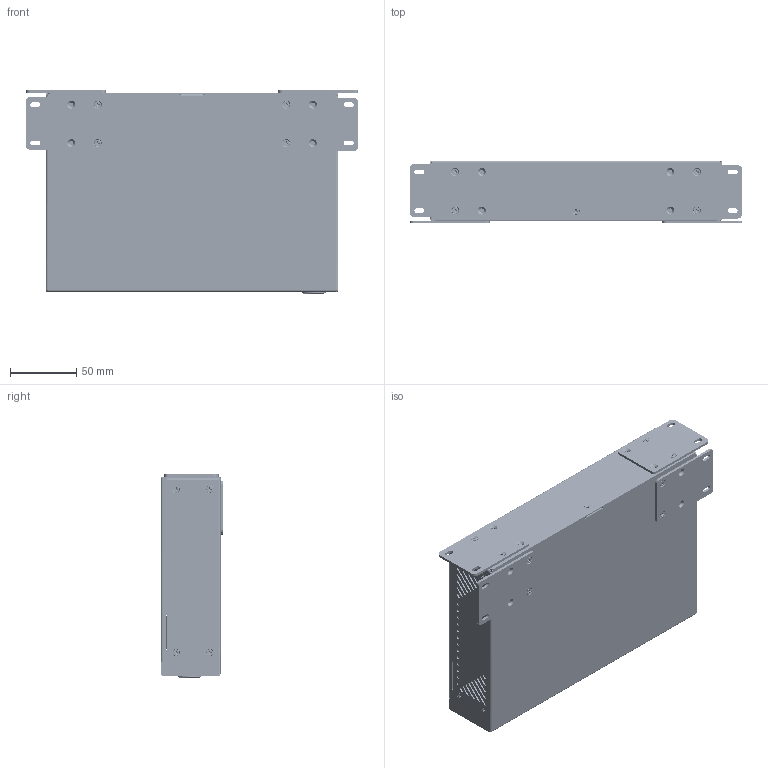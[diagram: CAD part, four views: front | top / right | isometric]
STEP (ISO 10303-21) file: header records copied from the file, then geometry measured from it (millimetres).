
FILE_DESCRIPTION((''),'2;1');
FILE_NAME('00-SMALL-CONTROL-CABINET_ASM','2025-12-22T09:57:09',('lenovo'),(''),'CREO PARAMETRIC BY PTC INC, 2024063','CREO PARAMETRIC BY PTC INC, 2024063','');
FILE_SCHEMA(('CONFIG_CONTROL_DESIGN','SHAPE_APPEARANCE_LAYERS_GROUPS'));
Products named in the file (26): 3204002863; 3204002864; M3X4; KF2EDGRM-X-5_08-3P-1G; KF2EDGRM-X-5_08-5P-1G; FRJ45077-1100K6K1200-REF_; C-292336-1-B-3D; __4_AF0; __7_2__AF0; __9_AF0; 00BCA676-CFFC-4ACA-82DB-304E6C2_AF0_ASM; HR911105A_ASM; 16SWITCH-BUTTON; 00-PCB-CONTROL_ASM; 2KF014RM-3_5-2X20P-1G; 2KF014RM-3_5-2X6P-1G; 2KF014RM-3_5-2X5P-1G; 2KF014RM-3_5-2X4P-1G; 00-IO_ASM; 00-PCB_ASM; 3204002866; FAN-FILTRATION-MODULE_ASM; 3508000037; FILTERING-NET-MODULE_ASM; 3204002465; 00-SMALL-CONTROL-CABINET_ASM
Assembly tree (49 placements, depth 6):
  00-SMALL-CONTROL-CABINET_ASM
    3204002863
    3204002864
    M3X4  x13
    00-PCB_ASM
      00-PCB-CONTROL_ASM
        KF2EDGRM-X-5_08-3P-1G
        KF2EDGRM-X-5_08-5P-1G
        FRJ45077-1100K6K1200-REF_
        C-292336-1-B-3D
        HR911105A_ASM  x2
          00BCA676-CFFC-4ACA-82DB-304E6C2_AF0_ASM
            __4_AF0
            __7_2__AF0
            __9_AF0
        16SWITCH-BUTTON
      00-IO_ASM
        2KF014RM-3_5-2X20P-1G
        2KF014RM-3_5-2X6P-1G
        2KF014RM-3_5-2X5P-1G
        2KF014RM-3_5-2X4P-1G
    FAN-FILTRATION-MODULE_ASM
      3204002866
      M3X4  x4
    FILTERING-NET-MODULE_ASM
      3508000037
      M3X4  x4
    3204002465  x4
Bounding box: 250 x 47 x 153.6 mm (x, y, z)
Volume: 158305.2 mm3; surface area: 280915.4 mm2
Topology: 78 solids, 80 shells, 13555 faces, 39174 edges, 25982 vertices
Faces by surface type: plane 9380, cylinder 2401, extrusion 604, cone 412, torus 372, revolution 202, bspline 160, sphere 24
Entity records: 648962 total; most frequent: CARTESIAN_POINT 128596, ORIENTED_EDGE 72036, DIRECTION 60873, PRESENTATION_STYLE_ASSIGNMENT 48710, STYLED_ITEM 48391, CURVE_STYLE 36569, EDGE_CURVE 36018, VECTOR 27413
